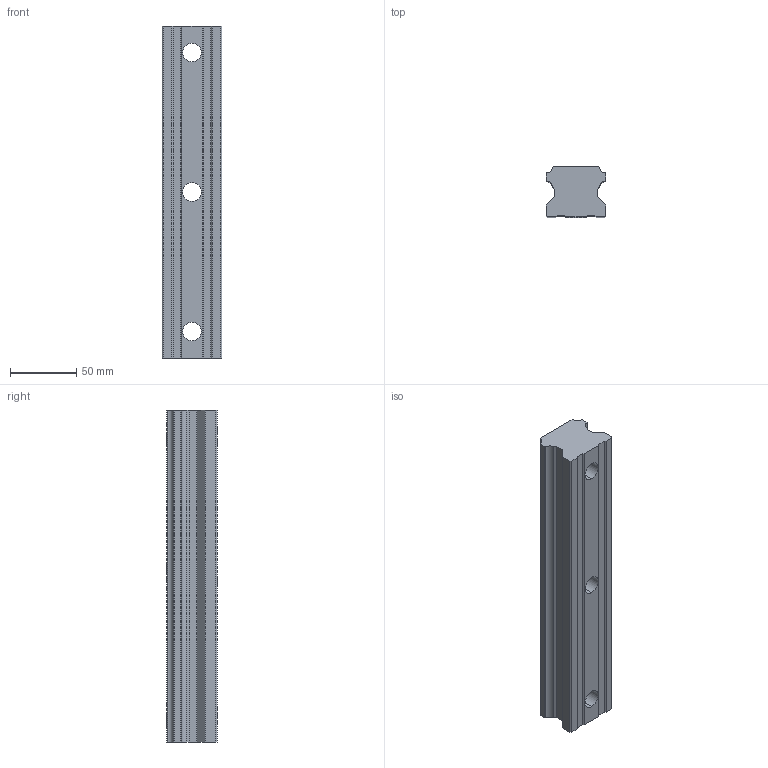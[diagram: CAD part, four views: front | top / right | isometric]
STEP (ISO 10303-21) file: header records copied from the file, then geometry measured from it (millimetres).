
FILE_DESCRIPTION (( 'STEP AP203' ), '1' );
FILE_NAME ('HSR45_Rail_SW2020.STEP', '2020-06-02T18:00:14', ( '' ), ( '' ), 'SwSTEP 2.0', 'SolidWorks 2020', '' );
FILE_SCHEMA (( 'CONFIG_CONTROL_DESIGN' ));
Length unit declared in the file: millimetre
Products named in the file (1): HSR45_Rail_SW2020
Bounding box: 45 x 38 x 250 mm (x, y, z)
Volume: 347080.5 mm3; surface area: 51336.8 mm2
Topology: 1 solids, 1 shells, 49 faces, 132 edges, 88 vertices
Faces by surface type: plane 33, cylinder 16
Entity records: 1627 total; most frequent: CARTESIAN_POINT 270, ORIENTED_EDGE 264, DIRECTION 264, EDGE_CURVE 132, VECTOR 100, LINE 100, VERTEX_POINT 88, AXIS2_PLACEMENT_3D 82
